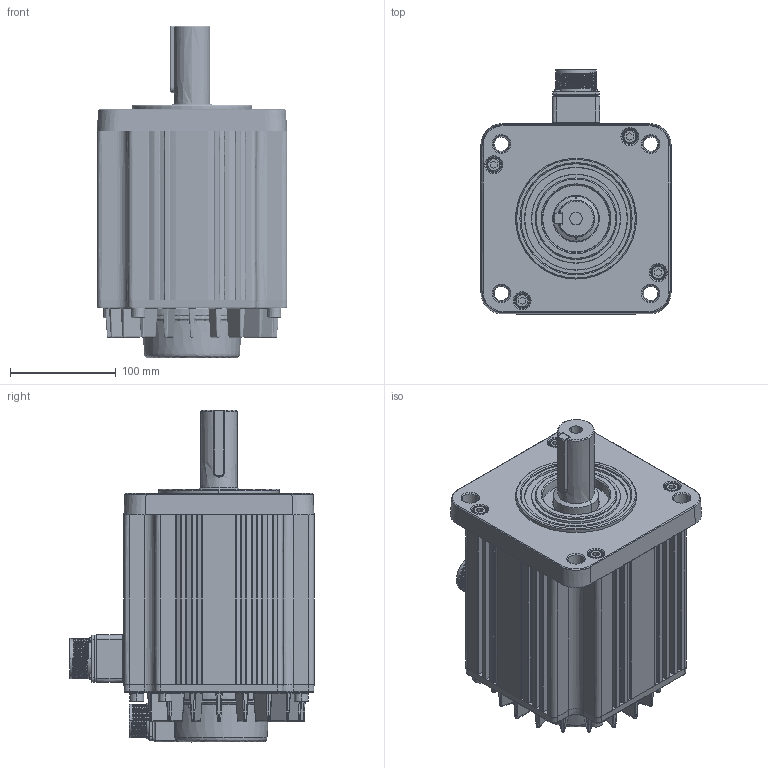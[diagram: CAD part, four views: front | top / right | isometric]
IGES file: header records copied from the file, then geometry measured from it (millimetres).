
Start section:  PTC IGES file: ecma-f21845ps.igs
Global section: file name: ecma-f21845ps.igs; native system: Pro/ENGINEER by Parametric Technology Corporation; preprocessor: 2001360; author: KUANG.YI; organization: Unknown; date: 080901.191409; units: millimetre
Bounding box: 180 x 231.12 x 314.3 mm (x, y, z)
Surface area: 697760.3 mm2 (no closed solid volume)
Topology: 0 solids, 0 shells, 2293 faces, 11326 edges, 11427 vertices
Faces by surface type: bspline 2293
